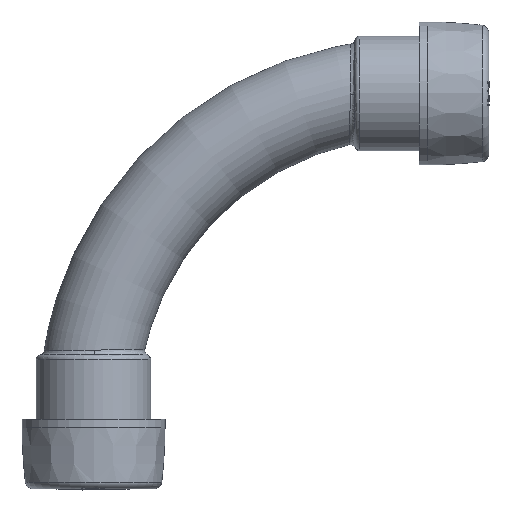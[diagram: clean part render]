
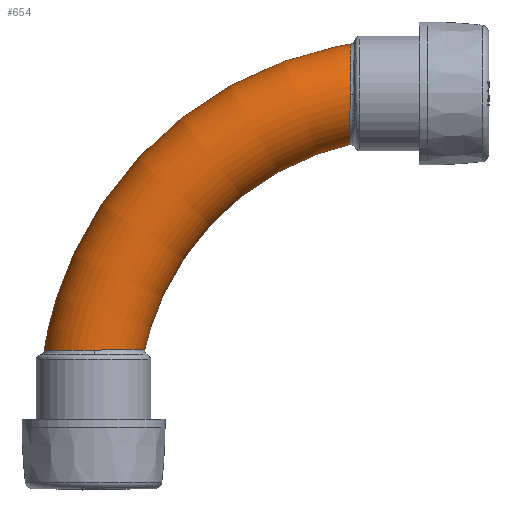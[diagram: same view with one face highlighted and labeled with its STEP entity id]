
A CAD part, top view. The second image highlights one B-rep face of the part: STEP entity #654.
In plain terms, the highlighted toroidal (fillet/blend) face has major radius 54.35 mm and minor radius 8.35 mm.
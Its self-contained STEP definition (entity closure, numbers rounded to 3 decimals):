
#484=B_SPLINE_CURVE_WITH_KNOTS('',3,(#1905,#1906,#1907,#1908,#1909,#1910,
#1911,#1912,#1913,#1914),.UNSPECIFIED.,.F.,.F.,(4,2,2,2,4),(0.,0.25,0.5,
0.75,1.),.UNSPECIFIED.);
#485=B_SPLINE_CURVE_WITH_KNOTS('',3,(#1917,#1918,#1919,#1920,#1921,#1922),
 .UNSPECIFIED.,.F.,.F.,(4,2,4),(0.,0.5,1.),.UNSPECIFIED.);
#494=B_SPLINE_CURVE_WITH_KNOTS('',3,(#2223,#2224,#2225,#2226,#2227,#2228,
#2229,#2230,#2231,#2232,#2233,#2234,#2235,#2236,#2237,#2238,#2239,#2240,
#2241,#2242,#2243,#2244,#2245,#2246,#2247,#2248),.UNSPECIFIED.,.F.,.F.,
(4,2,2,2,2,2,2,2,2,2,2,2,4),(0.,0.062,0.125,0.188,0.25,
0.375,0.437,0.469,0.5,
0.625,0.688,0.75,1.),.UNSPECIFIED.);
#495=B_SPLINE_CURVE_WITH_KNOTS('',3,(#2250,#2251,#2252,#2253,#2254,#2255,
#2256,#2257,#2258,#2259,#2260,#2261,#2262,#2263,#2264,#2265,#2266,#2267,
#2268,#2269,#2270,#2271,#2272,#2273,#2274,#2275),.UNSPECIFIED.,.F.,.F.,
(4,2,2,2,2,2,2,2,2,2,2,2,4),(0.,0.063,0.094,0.125,
0.25,0.5,0.625,0.688,0.75,0.813,0.844,0.875,1.),.UNSPECIFIED.);
#500=B_SPLINE_CURVE_WITH_KNOTS('',3,(#2507,#2508,#2509,#2510,#2511,#2512),
 .UNSPECIFIED.,.F.,.F.,(4,2,4),(0.,0.5,1.),.UNSPECIFIED.);
#503=B_SPLINE_CURVE_WITH_KNOTS('',3,(#2774,#2775,#2776,#2777,#2778,#2779),
 .UNSPECIFIED.,.F.,.F.,(4,2,4),(0.,0.5,1.),.UNSPECIFIED.);
#654=ADVANCED_FACE('',(#715,#716),#693,.T.);
#693=TOROIDAL_SURFACE('',#1607,54.35,8.35);
#715=FACE_BOUND('',#773,.T.);
#716=FACE_BOUND('',#774,.T.);
#773=EDGE_LOOP('',(#874,#875,#876));
#774=EDGE_LOOP('',(#877,#878,#879));
#874=ORIENTED_EDGE('',*,*,#1331,.F.);
#875=ORIENTED_EDGE('',*,*,#1330,.F.);
#876=ORIENTED_EDGE('',*,*,#1346,.F.);
#877=ORIENTED_EDGE('',*,*,#1341,.T.);
#878=ORIENTED_EDGE('',*,*,#1340,.T.);
#879=ORIENTED_EDGE('',*,*,#1349,.T.);
#1120=VERTEX_POINT('',#1915);
#1121=VERTEX_POINT('',#1916);
#1122=VERTEX_POINT('',#1923);
#1127=VERTEX_POINT('',#2192);
#1130=VERTEX_POINT('',#2222);
#1131=VERTEX_POINT('',#2249);
#1330=EDGE_CURVE('',#1120,#1121,#484,.T.);
#1331=EDGE_CURVE('',#1121,#1122,#485,.T.);
#1340=EDGE_CURVE('',#1131,#1130,#494,.T.);
#1341=EDGE_CURVE('',#1127,#1131,#495,.T.);
#1346=EDGE_CURVE('',#1122,#1120,#500,.T.);
#1349=EDGE_CURVE('',#1130,#1127,#503,.T.);
#1607=AXIS2_PLACEMENT_3D('',#2808,#1702,#1703);
#1702=DIRECTION('',(0.,0.,1.));
#1703=DIRECTION('',(1.,0.,0.));
#1905=CARTESIAN_POINT('',(-14.976,-28.351,8.35));
#1906=CARTESIAN_POINT('',(-17.178,-28.384,8.352));
#1907=CARTESIAN_POINT('',(-19.378,-28.418,7.472));
#1908=CARTESIAN_POINT('',(-22.54,-28.466,4.394));
#1909=CARTESIAN_POINT('',(-23.473,-28.481,2.208));
#1910=CARTESIAN_POINT('',(-23.474,-28.481,-2.202));
#1911=CARTESIAN_POINT('',(-22.543,-28.466,-4.389));
#1912=CARTESIAN_POINT('',(-19.386,-28.418,-7.469));
#1913=CARTESIAN_POINT('',(-17.187,-28.384,-8.35));
#1914=CARTESIAN_POINT('',(-14.976,-28.351,-8.35));
#1915=CARTESIAN_POINT('',(-14.976,-28.351,8.35));
#1916=CARTESIAN_POINT('',(-14.976,-28.351,-8.35));
#1917=CARTESIAN_POINT('',(-14.976,-28.351,-8.35));
#1918=CARTESIAN_POINT('',(-12.775,-28.318,-8.35));
#1919=CARTESIAN_POINT('',(-10.574,-28.286,-7.481));
#1920=CARTESIAN_POINT('',(-7.383,-28.254,-4.408));
#1921=CARTESIAN_POINT('',(-6.43,-28.25,-2.211));
#1922=CARTESIAN_POINT('',(-6.428,-28.251,0.));
#1923=CARTESIAN_POINT('',(-6.428,-28.251,0.));
#2192=CARTESIAN_POINT('',(28.351,14.976,8.35));
#2222=CARTESIAN_POINT('',(28.251,6.428,0.));
#2223=CARTESIAN_POINT('',(28.351,14.976,-8.35));
#2224=CARTESIAN_POINT('',(28.347,14.744,-8.35));
#2225=CARTESIAN_POINT('',(28.344,14.491,-8.341));
#2226=CARTESIAN_POINT('',(28.335,13.942,-8.293));
#2227=CARTESIAN_POINT('',(28.33,13.605,-8.246));
#2228=CARTESIAN_POINT('',(28.323,13.063,-8.142));
#2229=CARTESIAN_POINT('',(28.319,12.795,-8.077));
#2230=CARTESIAN_POINT('',(28.312,12.266,-7.922));
#2231=CARTESIAN_POINT('',(28.309,12.053,-7.851));
#2232=CARTESIAN_POINT('',(28.295,11.142,-7.487));
#2233=CARTESIAN_POINT('',(28.289,10.61,-7.196));
#2234=CARTESIAN_POINT('',(28.281,9.921,-6.735));
#2235=CARTESIAN_POINT('',(28.278,9.709,-6.577));
#2236=CARTESIAN_POINT('',(28.275,9.417,-6.34));
#2237=CARTESIAN_POINT('',(28.274,9.324,-6.26));
#2238=CARTESIAN_POINT('',(28.272,9.145,-6.102));
#2239=CARTESIAN_POINT('',(28.271,9.087,-6.049));
#2240=CARTESIAN_POINT('',(28.266,8.545,-5.527));
#2241=CARTESIAN_POINT('',(28.263,8.173,-5.081));
#2242=CARTESIAN_POINT('',(28.259,7.706,-4.395));
#2243=CARTESIAN_POINT('',(28.258,7.565,-4.164));
#2244=CARTESIAN_POINT('',(28.256,7.311,-3.7));
#2245=CARTESIAN_POINT('',(28.256,7.211,-3.498));
#2246=CARTESIAN_POINT('',(28.252,6.646,-2.189));
#2247=CARTESIAN_POINT('',(28.251,6.428,-1.08));
#2248=CARTESIAN_POINT('',(28.251,6.428,0.));
#2249=CARTESIAN_POINT('',(28.351,14.976,-8.35));
#2250=CARTESIAN_POINT('',(28.351,14.976,8.35));
#2251=CARTESIAN_POINT('',(28.36,15.581,8.35));
#2252=CARTESIAN_POINT('',(28.369,16.159,8.287));
#2253=CARTESIAN_POINT('',(28.381,16.971,8.122));
#2254=CARTESIAN_POINT('',(28.385,17.232,8.056));
#2255=CARTESIAN_POINT('',(28.393,17.735,7.904));
#2256=CARTESIAN_POINT('',(28.396,17.944,7.831));
#2257=CARTESIAN_POINT('',(28.416,19.26,7.301));
#2258=CARTESIAN_POINT('',(28.43,20.155,6.718));
#2259=CARTESIAN_POINT('',(28.467,22.569,4.366));
#2260=CARTESIAN_POINT('',(28.481,23.473,2.172));
#2261=CARTESIAN_POINT('',(28.481,23.475,-1.081));
#2262=CARTESIAN_POINT('',(28.477,23.258,-2.173));
#2263=CARTESIAN_POINT('',(28.467,22.618,-3.697));
#2264=CARTESIAN_POINT('',(28.463,22.353,-4.186));
#2265=CARTESIAN_POINT('',(28.454,21.727,-5.106));
#2266=CARTESIAN_POINT('',(28.448,21.346,-5.557));
#2267=CARTESIAN_POINT('',(28.436,20.583,-6.301));
#2268=CARTESIAN_POINT('',(28.43,20.16,-6.643));
#2269=CARTESIAN_POINT('',(28.419,19.468,-7.097));
#2270=CARTESIAN_POINT('',(28.416,19.228,-7.238));
#2271=CARTESIAN_POINT('',(28.408,18.731,-7.498));
#2272=CARTESIAN_POINT('',(28.404,18.44,-7.631));
#2273=CARTESIAN_POINT('',(28.386,17.286,-8.096));
#2274=CARTESIAN_POINT('',(28.369,16.19,-8.35));
#2275=CARTESIAN_POINT('',(28.351,14.976,-8.35));
#2507=CARTESIAN_POINT('',(-6.428,-28.251,0.));
#2508=CARTESIAN_POINT('',(-6.428,-28.251,2.232));
#2509=CARTESIAN_POINT('',(-7.385,-28.254,4.406));
#2510=CARTESIAN_POINT('',(-10.551,-28.286,7.463));
#2511=CARTESIAN_POINT('',(-12.746,-28.317,8.35));
#2512=CARTESIAN_POINT('',(-14.976,-28.351,8.35));
#2774=CARTESIAN_POINT('',(28.251,6.428,0.));
#2775=CARTESIAN_POINT('',(28.251,6.428,2.232));
#2776=CARTESIAN_POINT('',(28.254,7.385,4.406));
#2777=CARTESIAN_POINT('',(28.286,10.551,7.463));
#2778=CARTESIAN_POINT('',(28.317,12.746,8.35));
#2779=CARTESIAN_POINT('',(28.351,14.976,8.35));
#2808=CARTESIAN_POINT('',(38.431,-38.431,0.));
